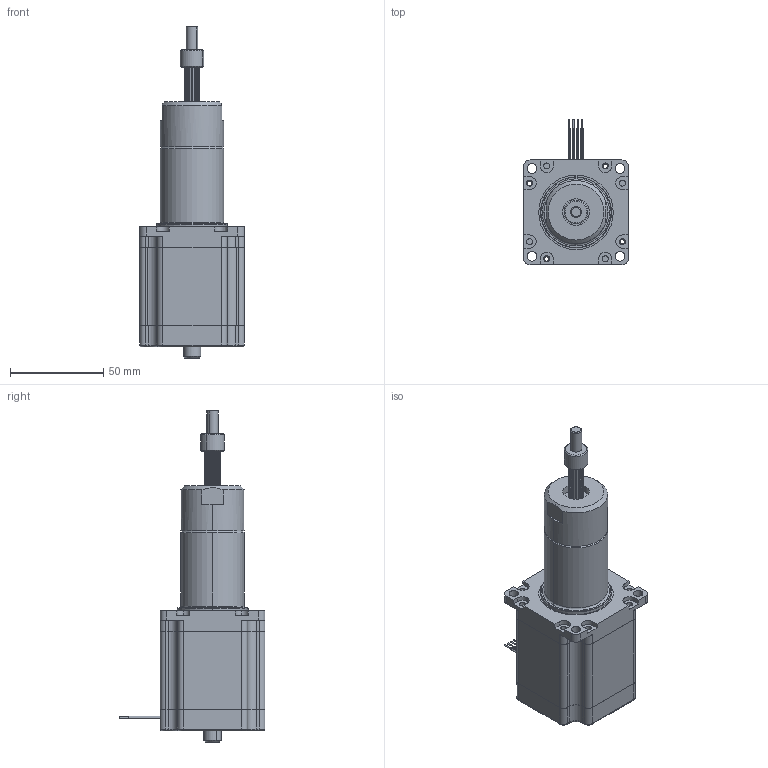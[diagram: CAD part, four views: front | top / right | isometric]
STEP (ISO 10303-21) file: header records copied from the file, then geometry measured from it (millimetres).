
FILE_DESCRIPTION (( 'STEP AP203' ), '1' );
FILE_NAME ('57邧詁綠嘐隅粣.STEP', '2014-09-12T05:56:34', ( 'user' ), ( 'pxctfys' ), 'SwSTEP 2.0', 'SolidWorks 2012', '' );
FILE_SCHEMA (( 'CONFIG_CONTROL_DESIGN' ));
Length unit declared in the file: millimetre
Products named in the file (1): 57邧詁綠嘐隅粣
Bounding box: 56.26 x 78.33 x 178.23 mm (x, y, z)
Surface area: 40076.9 mm2 (no closed solid volume)
Topology: 0 solids, 24 shells, 349 faces, 1377 edges, 1061 vertices
Faces by surface type: cylinder 170, plane 145, torus 18, cone 16
Entity records: 14721 total; most frequent: CARTESIAN_POINT 2825, DIRECTION 2666, ORIENTED_EDGE 2080, EDGE_CURVE 1377, VERTEX_POINT 1061, AXIS2_PLACEMENT_3D 946, LINE 774, VECTOR 774
